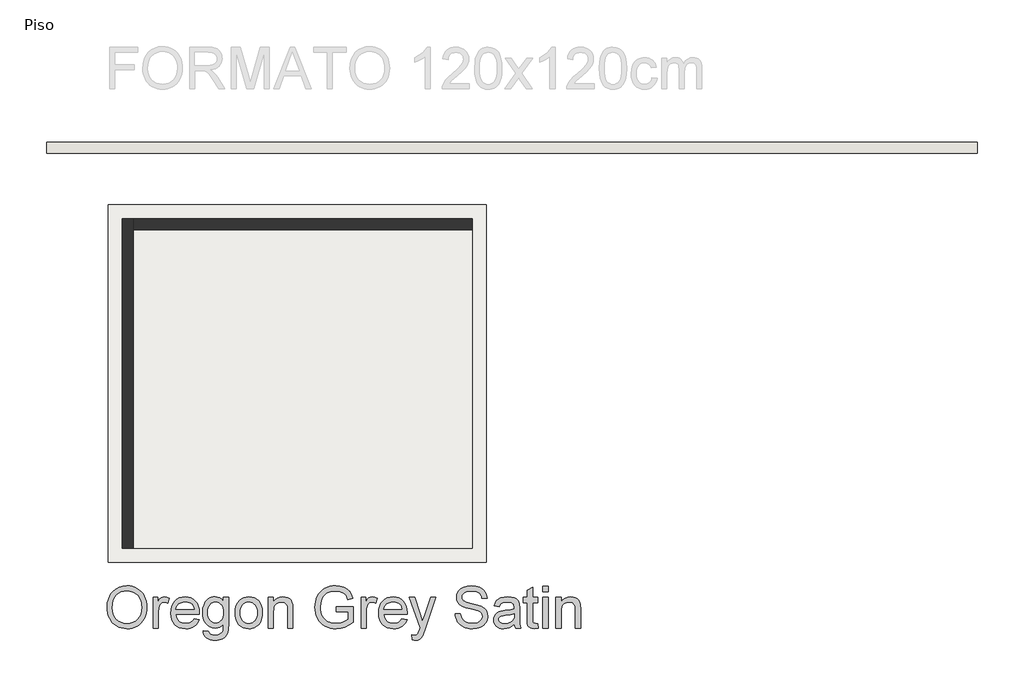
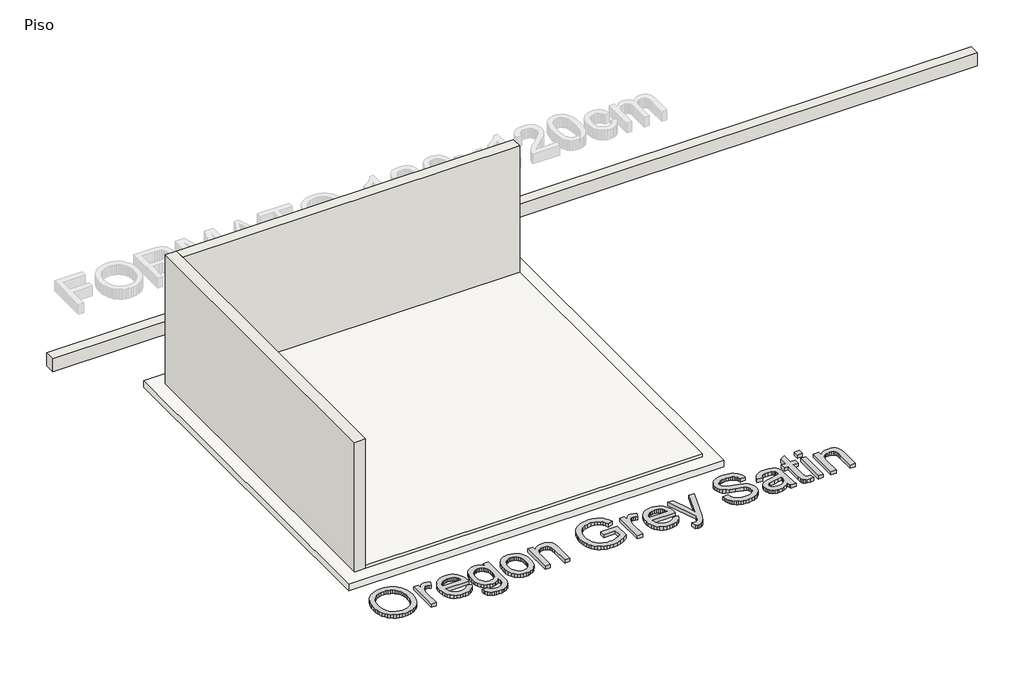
# One storey, part 1 of 2: 3 walls, 2 slabs, 1 proxy.
"""IFC4 building model written with IfcOpenShell, lengths in millimetres."""

from ifc_helpers import new_model, si_unit, frame, origin, origin_with_axes, place, context, project, spatial, polyline, outline, extrude, faceted_brep, element, save

model = new_model("IFC4")

# Units and contexts
model_context = context("Model", 3, world=origin())
ifc_project = project(units=[si_unit("LENGTHUNIT", "METRE", prefix="MILLI")], contexts=[model_context])

# Site, building, storey
site = spatial("IfcSite", under=ifc_project)
building = spatial("IfcBuilding", under=site)
storey = spatial("IfcBuildingStorey", under=building, Name="Piso", Elevation=0.0)

# Proxy
placement = place(None, origin())
element("IfcBuildingElementProxy", 1, Name="600mm Arial", ObjectType="600mm Arial", at=placement, inside=storey, context=model_context, shape_type="SweptSolid", body=[
    extrude(outline(polyline([(92565.5210472, -4824.3170558), (92570.5426364, -4753.6193334), (92585.6074041, -4691.0334089), (92610.7153503, -4636.5592825), (92627.0355153, -4612.3641435), (92645.8664749, -4590.1969541), (92688.9546536, -4553.1788283), (92737.8737619, -4526.7373099), (92792.6237999, -4510.8723988), (92853.2047674, -4505.5840952), (92893.7545603, -4508.0672986), (92932.2626082, -4515.516909), (92968.7289109, -4527.9329264), (93003.1534686, -4545.3153506), (93034.570591, -4567.13995), (93062.0145879, -4592.8824926), (93085.4854592, -4622.5429785), (93104.9832049, -4656.1214076), (93120.30549, -4692.8544248), (93131.2499794, -4731.978675), (93137.816673, -4773.4941581), (93140.0055709, -4817.4008743), (93137.7017099, -4861.8870045), (93130.7901269, -4903.9635077), (93119.2708219, -4943.6303839), (93103.1437949, -4980.8876329), (93082.7907236, -5014.7511706), (93058.5932853, -5044.2369125), (93030.5514802, -5069.3448587), (92998.6653083, -5090.0750091), (92964.1901668, -5106.2986051), (92928.3814531, -5117.8868879), (92891.2391672, -5124.8398576), (92852.763309, -5127.1575142), (92811.5053433, -5124.5961358), (92772.4914577, -5116.9120006), (92735.7216523, -5104.1051087), (92701.195927, -5086.17546), (92669.8155928, -5063.8174317), (92642.4819606, -5037.7254012), (92619.1950303, -5007.8993684), (92599.9548019, -4974.3393334), (92584.8900342, -4938.392664), (92574.1294859, -4901.4067279), (92567.6731569, -4863.3815251), (92565.5210472, -4824.3170558)]), holes=[polyline([(92640.8632798, -4825.0528198), (92644.6294717, -4875.0019977), (92655.9280475, -4919.3409751), (92674.7590071, -4958.0697522), (92701.1223506, -4991.1883288), (92733.1694709, -5017.7126206), (92769.051761, -5036.6585434), (92808.7692209, -5048.0260971), (92852.3218506, -5051.8152816), (92896.6194414, -5047.9893089), (92936.8059508, -5036.5113906), (92972.881379, -5017.3815269), (93004.8457258, -4990.5997176), (93031.0159313, -4956.7821652), (93049.7089351, -4916.545072), (93060.9247375, -4869.8884379), (93064.6633382, -4816.8122631), (93063.0630516, -4782.3325231), (93058.2621915, -4750.1152574), (93050.2607581, -4720.1604659), (93039.0587514, -4692.4681487), (93024.7803314, -4667.4015893), (93007.5496585, -4645.324071), (92987.3667325, -4626.235594), (92964.2315536, -4610.1361582), (92938.8614915, -4597.3568574), (92911.9739161, -4588.2287854), (92883.5688276, -4582.7519422), (92853.6462258, -4580.9263278), (92811.6065108, -4584.4441994), (92772.6018223, -4594.9978141), (92736.6321602, -4612.587172), (92703.6975246, -4637.212273), (92676.2075425, -4670.0595367), (92656.571841, -4712.3153824), (92644.7904201, -4763.97981), (92640.8632798, -4825.0528198)])]), origin_with_axes(), (0.0, 0.0, 1.0), 50.0),
    extrude(outline(polyline([(93234.1833616, -5117.7397351), (93234.1833616, -4675.1041185), (93300.1078152, -4675.1041185), (93300.1078152, -4740.5871137), (93324.4616032, -4702.6216918), (93346.9024049, -4680.2544665), (93369.416783, -4669.3283712), (93393.9913003, -4665.6863395), (93431.5152638, -4671.498875), (93469.6278385, -4688.9364816), (93444.4647101, -4756.4796159), (93417.9772064, -4744.891333), (93391.4897028, -4741.0285721), (93368.9937188, -4744.7441802), (93348.8889677, -4755.8910047), (93332.6469776, -4773.6229168), (93321.7392765, -4797.0937881), (93312.5790148, -4839.1794884), (93309.5255942, -4885.0911614), (93309.5255942, -5117.7397351), (93234.1833616, -5117.7397351)])), origin_with_axes(), (0.0, 0.0, 1.0), 50.0),
    extrude(outline(polyline([(93826.6205267, -4985.8908281), (93900.4912313, -4995.3086071), (93889.1650644, -5024.8955166), (93873.8749689, -5050.969153), (93854.620945, -5073.5295164), (93831.4029926, -5092.5766067), (93804.460235, -5107.7057537), (93774.0317954, -5118.5122873), (93740.117674, -5124.9962075), (93702.7178707, -5127.1575142), (93655.9692661, -5123.4281105), (93614.3158272, -5112.2398993), (93577.757554, -5093.5928807), (93546.2944463, -5067.4870546), (93520.9933621, -5034.648988), (93502.9211591, -4995.8052478), (93492.0778373, -4950.9558341), (93488.4633967, -4900.1007468), (93492.1146255, -4847.5212126), (93503.0683119, -4801.1772783), (93521.3244559, -4761.0689438), (93546.8830575, -4727.1962091), (93578.2633917, -4700.2856411), (93613.9847334, -4681.0638069), (93654.0470827, -4669.5307063), (93698.4504395, -4665.6863395), (93741.4236551, -4669.5215093), (93780.2857894, -4681.0270187), (93815.0368423, -4700.2028677), (93845.676814, -4727.0490563), (93870.6881911, -4760.8482146), (93888.5534605, -4800.8829727), (93899.2726222, -4847.1533306), (93902.8456761, -4899.6592884), (93902.4042177, -4919.9663745), (93563.8056293, -4919.9663745), (93568.1696295, -4950.0315306), (93576.847046, -4976.3626844), (93589.837879, -4998.9598359), (93607.1421283, -5017.8229852), (93627.8033009, -5032.6946149), (93650.8649035, -5043.3172075), (93676.326936, -5049.6907631), (93704.1893987, -5051.8152816), (93744.2885361, -5047.8789443), (93778.0601033, -5036.0699322), (93805.5041001, -5015.6524815), (93826.6205267, -4985.8908281)]), holes=[polyline([(93563.8056293, -4844.6241419), (93827.5034434, -4844.6241419), (93817.3131122, -4804.81931), (93808.5483236, -4789.1659311), (93797.3371198, -4776.3452436), (93776.7909104, -4760.8941998), (93753.4120096, -4749.85774), (93727.2004175, -4743.235864), (93698.1561339, -4741.0285721), (93671.6640318, -4742.7898071), (93647.3700245, -4748.0735123), (93625.2741122, -4756.8796875), (93605.3762948, -4769.2083329), (93588.6790507, -4784.4892313), (93576.1848584, -4802.1521656), (93567.893718, -4822.1971358), (93563.8056293, -4844.6241419)])]), origin_with_axes(), (0.0, 0.0, 1.0), 50.0),
    extrude(outline(polyline([(93959.3523505, -5155.4108514), (94034.6945831, -5164.8286305), (94043.0087162, -5188.3730782), (94059.1219476, -5204.559886), (94090.7965874, -5217.1414502), (94132.2568882, -5221.335305), (94176.4763041, -5216.5896272), (94194.3369749, -5210.6575301), (94209.3649544, -5202.352594), (94232.1736381, -5179.5439103), (94246.153154, -5149.0832811), (94250.2366441, -5116.6728774), (94251.3035019, -5061.2330607), (94226.2323439, -5085.9547308), (94198.2549182, -5103.6130665), (94167.3712247, -5114.208068), (94133.5812634, -5117.7397351), (94092.2727139, -5113.6286538), (94055.9029801, -5101.29541), (94024.4720622, -5080.7400035), (93997.97996, -5051.9624344), (93976.9601025, -5017.4367092), (93961.9459186, -4979.6368341), (93952.9374082, -4938.5628094), (93949.9345714, -4894.2146349), (93955.3240427, -4833.385347), (93971.4924564, -4777.4488896), (93983.4762123, -4752.2259803), (93997.8695954, -4730.0472945), (94014.6726055, -4710.9128322), (94033.8852427, -4694.8225935), (94055.1994058, -4682.0754823), (94078.3069937, -4672.970403), (94103.2080062, -4667.5073553), (94129.9024435, -4665.6863395), (94165.1363416, -4669.8066178), (94197.114484, -4682.1674528), (94225.8368708, -4702.7688446), (94251.3035019, -4731.610793), (94251.3035019, -4675.1041185), (94326.6457345, -4675.1041185), (94326.6457345, -5057.2599351), (94321.4953866, -5145.4964317), (94315.0574516, -5178.3161042), (94306.0443428, -5203.6033928), (94294.2399292, -5223.9978509), (94279.4280804, -5242.1390318), (94261.6087963, -5258.0269355), (94240.7820768, -5271.6615619), (94217.1594542, -5282.6060513), (94190.9524606, -5290.4235437), (94162.1610959, -5295.1140391), (94130.7853603, -5296.6775376), (94093.8730006, -5294.4748441), (94060.6854461, -5287.8667638), (94031.2226968, -5276.8532966), (94005.4847527, -5261.4344425), (93984.6948215, -5241.5918073), (93970.0761107, -5217.3069971), (93961.6286204, -5188.5800118), (93959.3523505, -5155.4108514)]), holes=[polyline([(94025.276804, -4889.0642869), (94027.2863594, -4926.3169375), (94033.3150256, -4958.1709197), (94043.3628026, -4984.6262337), (94057.4296904, -5005.6828794), (94074.5316047, -5021.745527), (94093.6844611, -5033.2188467), (94114.8882595, -5040.1028386), (94138.1430002, -5042.3975025), (94161.1678145, -5040.1166342), (94182.2704455, -5033.274029), (94201.450893, -5021.8696872), (94218.7091571, -5005.9036086), (94232.9691829, -4985.0538965), (94243.1549157, -4958.9986542), (94249.2663553, -4927.7378817), (94251.3035019, -4891.2715789), (94249.2065745, -4856.3273879), (94242.9157924, -4825.9541307), (94232.4311555, -4800.1518072), (94217.7526639, -4778.9204176), (94200.1219193, -4762.3427352), (94180.7805234, -4750.5015335), (94159.7284762, -4743.3968124), (94136.9657778, -4741.0285721), (94114.5847569, -4743.3600242), (94093.9419784, -4750.3543807), (94075.0374424, -4762.0116414), (94057.8711488, -4778.3318064), (94043.611123, -4799.2412993), (94033.4253902, -4824.6665437), (94027.3139506, -4854.6075396), (94025.276804, -4889.0642869)])]), origin_with_axes(), (0.0, 0.0, 1.0), 50.0),
    extrude(outline(polyline([(94420.8235253, -4896.4219268), (94424.8978184, -4839.0967149), (94437.1206976, -4789.69936), (94457.4921631, -4748.2298621), (94486.0122148, -4714.6882212), (94514.7254045, -4693.249898), (94546.4184384, -4677.9368099), (94581.0913165, -4668.7489571), (94618.7440387, -4665.6863395), (94660.3101056, -4669.4157432), (94697.8938499, -4680.6039544), (94731.4952717, -4699.250973), (94761.1143708, -4725.3567991), (94785.2888164, -4758.0385158), (94802.5562776, -4796.4132064), (94812.9167542, -4840.4808709), (94816.3702465, -4890.2415093), (94814.8435362, -4930.570573), (94810.2634054, -4966.3562941), (94802.629854, -4997.5986726), (94791.942882, -5024.2977084), (94778.3358467, -5047.3593109), (94761.9421053, -5067.6893897), (94742.7616578, -5085.2879446), (94720.7945041, -5100.1549758), (94696.89597, -5111.9685863), (94671.9213811, -5120.4068796), (94645.8707373, -5125.4698556), (94618.7440387, -5127.1575142), (94576.5709664, -5123.4419061), (94538.6377342, -5112.2950816), (94504.944342, -5093.7170409), (94475.4907897, -5067.7077838), (94451.5738615, -5034.7087688), (94434.4903414, -4995.1614543), (94424.2402293, -4949.0658403), (94420.8235253, -4896.4219268)]), holes=[polyline([(94496.1657579, -4896.274774), (94498.3454587, -4932.8192517), (94504.8845612, -4964.4617018), (94515.7830653, -4991.2021244), (94531.040971, -5013.0405193), (94549.6006177, -5030.0044778), (94570.4043445, -5042.121591), (94593.4521515, -5049.391859), (94618.7440387, -5051.8152816), (94643.9071671, -5049.3780634), (94666.8630036, -5042.0664087), (94687.6115482, -5029.8803176), (94706.1528007, -5012.8197901), (94721.4107065, -4990.7652645), (94732.3092106, -4963.5971792), (94738.848313, -4931.3155341), (94741.0280139, -4893.9203293), (94738.8345175, -4858.5346799), (94732.2540283, -4827.7199642), (94721.2865463, -4801.4761824), (94705.9320715, -4779.8033344), (94687.3218411, -4762.8393759), (94666.5870921, -4750.7222626), (94643.7278247, -4743.4519947), (94618.7440387, -4741.0285721), (94593.4521515, -4743.4427977), (94570.4043445, -4750.6854744), (94549.6006177, -4762.7566024), (94531.040971, -4779.6561816), (94515.7830653, -4801.4301972), (94504.8845612, -4828.1246344), (94498.3454587, -4859.7394934), (94496.1657579, -4896.274774)])]), origin_with_axes(), (0.0, 0.0, 1.0), 50.0),
    extrude(outline(polyline([(94901.1302582, -5117.7397351), (94901.1302582, -4675.1041185), (94976.4724908, -4675.1041185), (94976.4724908, -4736.9082937), (95002.6472947, -4705.7486887), (95034.0828112, -4683.491828), (95070.7790402, -4670.1377116), (95112.7359818, -4665.6863395), (95149.8736692, -4669.2731889), (95183.8843597, -4680.0337373), (95212.2480615, -4696.6252153), (95232.444783, -4717.7048536), (95246.1483873, -4743.2174699), (95255.0327375, -4773.1078821), (95259.0058631, -4845.9485171), (95259.0058631, -5117.7397351), (95183.6636305, -5117.7397351), (95183.6636305, -4856.1020602), (95181.4931267, -4817.1433569), (95174.9816154, -4789.4418426), (95162.9702682, -4769.594609), (95144.300257, -4754.1987475), (95120.3695332, -4744.3211159), (95092.5760485, -4741.0285721), (95069.6983869, -4742.8771791), (95048.4486031, -4748.4230002), (95028.8266972, -4757.6660353), (95010.8326691, -4770.6062845), (94995.8000911, -4788.7152757), (94985.0625354, -4813.4645369), (94978.6200019, -4844.8540682), (94976.4724908, -4882.8838694), (94976.4724908, -5117.7397351), (94901.1302582, -5117.7397351)])), origin_with_axes(), (0.0, 0.0, 1.0), 50.0),
    extrude(outline(polyline([(95889.9970612, -4882.2952582), (95889.9970612, -4806.9530256), (96134.8593172, -4806.9530256), (96134.8593172, -5032.2439595), (96075.3544045, -5073.6306839), (96013.9732936, -5103.3187609), (95950.8631373, -5121.1978259), (95886.1710884, -5127.1575142), (95842.8943702, -5124.7892739), (95801.6502001, -5117.6845528), (95762.4385779, -5105.8433511), (95725.2595038, -5089.2656687), (95691.3131927, -5068.199826), (95661.7998596, -5042.8941432), (95636.7195046, -5013.3486205), (95616.0721276, -4979.5632577), (95599.9451006, -4942.6187084), (95588.4257957, -4903.5956257), (95581.5142127, -4862.4940098), (95579.2103517, -4819.3138606), (95581.5050156, -4776.1291129), (95588.3890075, -4734.4250903), (95599.8623272, -4694.2017926), (95615.9249748, -4655.45922), (95636.2918418, -4619.8988266), (95660.6778195, -4589.2220668), (95689.0829081, -4563.4289404), (95721.5071074, -4542.5194475), (95757.2468432, -4526.3602308), (95795.5985412, -4514.8179332), (95836.5622014, -4507.8925547), (95880.1378237, -4505.5840952), (95942.1995163, -4510.9367782), (95998.007215, -4526.9948273), (96022.9266216, -4538.748657), (96045.0041399, -4552.5994141), (96064.2397697, -4568.5470986), (96080.6335111, -4586.5917105), (96106.9922561, -4630.6087912), (96126.1773021, -4686.2877312), (96056.7211814, -4705.8590533), (96041.2149553, -4666.146192), (96022.3610031, -4636.1822035), (95997.4186038, -4613.5942489), (95963.6470366, -4596.0094896), (95923.3823523, -4584.6971182), (95878.9606013, -4580.9263278), (95826.9604813, -4584.9914238), (95782.5019422, -4597.186712), (95745.7505309, -4615.9854819), (95716.8717943, -4639.8610234), (95694.7069041, -4667.5809317), (95678.097032, -4697.9128022), (95660.4386962, -4754.7873587), (95654.5525843, -4816.2236519), (95656.3230164, -4853.8441844), (95661.6343127, -4888.2733406), (95670.4864732, -4919.5111206), (95682.8794979, -4947.5575242), (95698.6524385, -4972.3067854), (95717.6443465, -4993.6531382), (95739.8552219, -5011.5965825), (95765.2850648, -5026.1371183), (95792.7428572, -5037.3713148), (95821.0375812, -5045.3957408), (95850.1692367, -5050.2103964), (95880.1378237, -5051.8152816), (95932.3218847, -5046.9776334), (95983.2183588, -5032.4646887), (96027.4193805, -5012.4703022), (96059.5170846, -4991.1883288), (96059.5170846, -4882.2952582), (95889.9970612, -4882.2952582)])), origin_with_axes(), (0.0, 0.0, 1.0), 50.0),
    extrude(outline(polyline([(96247.8726661, -5117.7397351), (96247.8726661, -4675.1041185), (96313.7971196, -4675.1041185), (96313.7971196, -4740.5871137), (96338.1509077, -4702.6216918), (96360.5917094, -4680.2544665), (96383.1060875, -4669.3283712), (96407.6806048, -4665.6863395), (96445.2045683, -4671.498875), (96483.317143, -4688.9364816), (96458.1540146, -4756.4796159), (96431.6665109, -4744.891333), (96405.1790072, -4741.0285721), (96382.6830232, -4744.7441802), (96362.5782722, -4755.8910047), (96346.3362821, -4773.6229168), (96335.428581, -4797.0937881), (96326.2683193, -4839.1794884), (96323.2148987, -4885.0911614), (96323.2148987, -5117.7397351), (96247.8726661, -5117.7397351)])), origin_with_axes(), (0.0, 0.0, 1.0), 50.0),
    extrude(outline(polyline([(96840.3098311, -4985.8908281), (96914.1805358, -4995.3086071), (96902.8543688, -5024.8955166), (96887.5642734, -5050.969153), (96868.3102495, -5073.5295164), (96845.0922971, -5092.5766067), (96818.1495395, -5107.7057537), (96787.7210999, -5118.5122873), (96753.8069785, -5124.9962075), (96716.4071752, -5127.1575142), (96669.6585706, -5123.4281105), (96628.0051317, -5112.2398993), (96591.4468585, -5093.5928807), (96559.9837508, -5067.4870546), (96534.6826666, -5034.648988), (96516.6104636, -4995.8052478), (96505.7671418, -4950.9558341), (96502.1527012, -4900.1007468), (96505.80393, -4847.5212126), (96516.7576164, -4801.1772783), (96535.0137604, -4761.0689438), (96560.572362, -4727.1962091), (96591.9526962, -4700.2856411), (96627.6740379, -4681.0638069), (96667.7363872, -4669.5307063), (96712.139744, -4665.6863395), (96755.1129596, -4669.5215093), (96793.9750938, -4681.0270187), (96828.7261468, -4700.2028677), (96859.3661185, -4727.0490563), (96884.3774956, -4760.8482146), (96902.242765, -4800.8829727), (96912.9619267, -4847.1533306), (96916.5349805, -4899.6592884), (96916.0935221, -4919.9663745), (96577.4949338, -4919.9663745), (96581.858934, -4950.0315306), (96590.5363505, -4976.3626844), (96603.5271835, -4998.9598359), (96620.8314328, -5017.8229852), (96641.4926054, -5032.6946149), (96664.5542079, -5043.3172075), (96690.0162405, -5049.6907631), (96717.8787031, -5051.8152816), (96757.9778406, -5047.8789443), (96791.7494078, -5036.0699322), (96819.1934046, -5015.6524815), (96840.3098311, -4985.8908281)]), holes=[polyline([(96577.4949338, -4844.6241419), (96841.1927479, -4844.6241419), (96831.0024167, -4804.81931), (96822.2376281, -4789.1659311), (96811.0264243, -4776.3452436), (96790.4802149, -4760.8941998), (96767.1013141, -4749.85774), (96740.8897219, -4743.235864), (96711.8454384, -4741.0285721), (96685.3533362, -4742.7898071), (96661.059329, -4748.0735123), (96638.9634167, -4756.8796875), (96619.0655992, -4769.2083329), (96602.3683552, -4784.4892313), (96589.8741629, -4802.1521656), (96581.5830225, -4822.1971358), (96577.4949338, -4844.6241419)])]), origin_with_axes(), (0.0, 0.0, 1.0), 50.0),
    extrude(outline(polyline([(96991.8772132, -5287.2597585), (96982.4594341, -5214.7134291), (97020.7191616, -5221.335305), (97040.8423067, -5219.2567717), (97056.4772915, -5213.0211719), (97068.6541855, -5203.0699639), (97078.4030584, -5189.8446062), (97099.0044501, -5134.3680013), (97104.8905621, -5116.1210544), (96944.7883178, -4675.1041185), (97024.2508287, -4675.1041185), (97109.1579932, -4920.8492913), (97138.7357056, -5019.1473604), (97168.313418, -4932.3272096), (97255.5750273, -4675.1041185), (97334.4489271, -4675.1041185), (97180.3799475, -5128.3347366), (97140.3543864, -5226.6328057), (97119.8633593, -5258.0131399), (97096.6500054, -5279.7549658), (97069.6842551, -5292.4468946), (97037.9360389, -5296.6775376), (97016.1206366, -5294.3230928), (96991.8772132, -5287.2597585)])), origin_with_axes(), (0.0, 0.0, 1.0), 50.0),
    extrude(outline(polyline([(97613.4506322, -4910.5485955), (97688.7928648, -4910.5485955), (97697.4380917, -4952.3583842), (97713.0730765, -4985.9644045), (97737.4636528, -5012.6358491), (97772.3756541, -5033.641911), (97815.0499656, -5047.271939), (97862.7274721, -5051.8152816), (97904.7028078, -5048.3755849), (97941.4542191, -5038.056495), (97971.2342666, -5021.7225344), (97992.2955108, -5000.2382259), (98004.8218928, -4975.5717381), (98008.9973534, -4949.6912397), (98005.8703565, -4924.472929), (97996.4893656, -4902.6759208), (97977.4330782, -4884.0794859), (97945.2801919, -4868.4628952), (97835.5777809, -4839.6945232), (97763.5648803, -4820.6566299), (97717.4876604, -4802.5384417), (97679.982091, -4777.1913722), (97653.4026169, -4746.4732256), (97637.565297, -4711.0461895), (97632.2861904, -4671.5724514), (97633.9186667, -4649.1362482), (97638.8160958, -4627.4450061), (97646.9784775, -4606.498725), (97658.405812, -4586.2974049), (97672.9693405, -4567.6641818), (97690.5403043, -4551.4221918), (97711.1187034, -4537.5714346), (97734.7045378, -4526.1119105), (97787.7163333, -4510.716049), (97846.3935115, -4505.5840952), (97909.9635203, -4510.9551723), (97965.587278, -4527.0684037), (97989.922672, -4539.0705538), (98011.2782218, -4553.5926955), (98029.6539274, -4570.634829), (98045.0497889, -4590.1969541), (98057.3462446, -4611.7088537), (98066.4237329, -4634.6003109), (98072.2822536, -4658.8713255), (98074.921807, -4684.5218976), (97999.5795743, -4684.5218976), (97994.539591, -4660.4808092), (97985.7472113, -4639.5667178), (97973.2024353, -4621.7796233), (97956.9052629, -4607.1195258), (97936.5521915, -4595.6600017), (97911.8397185, -4587.4746273), (97882.7678438, -4582.5634027), (97849.3365675, -4580.9263278), (97814.8384334, -4582.5450086), (97785.3618885, -4587.4010509), (97760.9069329, -4595.4944548), (97741.4735665, -4606.8252202), (97726.6663162, -4620.4460511), (97716.0897089, -4635.4096513), (97709.7437444, -4651.7160207), (97707.628423, -4669.3651594), (97709.1275421, -4684.5494888), (97713.6248995, -4698.3174724), (97721.1204951, -4710.6691104), (97731.6143291, -4721.6044027), (97748.1322306, -4731.9602809), (97774.1414877, -4742.4265237), (97854.6340682, -4763.690103), (97937.7018228, -4783.8868245), (97987.9545033, -4801.5083721), (98030.9047262, -4828.8420043), (98047.5099998, -4844.9092505), (98060.8687147, -4862.5767833), (98071.1372209, -4881.7526323), (98078.4718682, -4902.344827), (98084.339586, -4947.7782534), (98082.6519274, -4971.3456937), (98077.5889514, -4994.2233553), (98069.1506582, -5016.4112381), (98057.3370476, -5037.9093422), (98042.3550533, -5057.8853345), (98024.411609, -5075.5068821), (98003.5067146, -5090.7739849), (97979.6403702, -5103.6866429), (97953.506953, -5113.9551491), (97925.8008402, -5121.2897964), (97865.6705281, -5127.1575142), (97827.1302906, -5125.5756216), (97791.8550058, -5120.8299439), (97759.8446737, -5112.920481), (97731.0992943, -5101.8472329), (97705.4441236, -5087.5918056), (97682.7044178, -5070.135805), (97662.8801768, -5049.4792309), (97645.9714006, -5025.6220835), (97632.3505697, -4999.336915), (97622.3901647, -4971.3962775), (97616.0901855, -4941.8001709), (97613.4506322, -4910.5485955)])), origin_with_axes(), (0.0, 0.0, 1.0), 50.0),
    extrude(outline(polyline([(98470.4685282, -5061.2330607), (98434.4712749, -5092.0983601), (98397.4071639, -5112.2950816), (98358.4300665, -5123.4419061), (98316.6938542, -5127.1575142), (98283.1476147, -5124.9226311), (98253.7308507, -5118.2179817), (98228.4435621, -5107.0435661), (98207.2857488, -5091.3993843), (98190.5793077, -5072.2787176), (98178.6461355, -5050.6748474), (98171.4862322, -5026.5877738), (98169.0995977, -5000.0174967), (98172.7048413, -4968.7843153), (98183.5205719, -4940.4206135), (98200.2040204, -4916.1404018), (98221.4124174, -4897.1576908), (98246.3364226, -4882.810293), (98274.1666955, -4872.4360208), (98339.3553851, -4861.1052553), (98416.3898749, -4849.1858787), (98470.0270698, -4835.2063628), (98470.4685282, -4818.4309439), (98465.281392, -4784.8065295), (98458.7974719, -4772.353724), (98449.7199836, -4762.8071862), (98434.0298165, -4753.2790425), (98414.9183469, -4746.4732256), (98366.4314999, -4741.0285721), (98321.5498965, -4744.6522097), (98290.2063505, -4755.5231227), (98268.8324066, -4775.6278737), (98253.8596094, -4806.9530256), (98178.5173768, -4797.5352465), (98191.5955817, -4756.3324631), (98211.1117216, -4723.9588475), (98238.8868122, -4699.2003892), (98276.7418695, -4680.8430777), (98323.0398186, -4669.475524), (98376.1435846, -4665.6863395), (98427.0768468, -4669.0340656), (98467.4518958, -4679.0772441), (98497.8941309, -4694.1788), (98519.0289515, -4712.7016584), (98533.0452555, -4735.6023126), (98542.1319408, -4763.8372558), (98545.8107608, -4829.7617093), (98545.8107608, -4923.4980417), (98549.6367335, -5054.3904556), (98555.3021163, -5086.745677), (98564.6463189, -5117.7397351), (98489.3040863, -5117.7397351), (98477.2375569, -5091.5465371), (98470.4685282, -5061.2330607)]), holes=[polyline([(98470.4685282, -4910.5485955), (98419.8479656, -4923.0933715), (98348.920317, -4933.6515848), (98284.0995094, -4945.865267), (98267.2321199, -4954.2161883), (98254.7425262, -4965.7308947), (98247.0170043, -4979.5264695), (98244.4418303, -4994.7199959), (98250.0520308, -5017.1240095), (98266.882632, -5035.481321), (98294.5657522, -5047.7317915), (98332.7335092, -5051.8152816), (98373.2005286, -5047.3087272), (98408.9586586, -5033.7890638), (98437.9477598, -5013.8682538), (98458.1076931, -4990.1582592), (98467.0472256, -4965.7308947), (98470.0270698, -4931.8857512), (98470.4685282, -4910.5485955)])]), origin_with_axes(), (0.0, 0.0, 1.0), 50.0),
    extrude(outline(polyline([(98809.5085749, -5054.9054904), (98818.926354, -5119.9470271), (98762.5668323, -5127.1575142), (98726.4040322, -5124.0305173), (98699.438282, -5114.6495264), (98680.3819946, -5100.191764), (98667.9475832, -5081.8344524), (98661.1049781, -5050.3069654), (98658.8241097, -4996.3386767), (98658.8241097, -4750.4463512), (98602.3174352, -4750.4463512), (98602.3174352, -4675.1041185), (98658.8241097, -4675.1041185), (98658.8241097, -4567.5354232), (98734.1663423, -4523.2424309), (98734.1663423, -4675.1041185), (98809.5085749, -4675.1041185), (98809.5085749, -4750.4463512), (98734.1663423, -4750.4463512), (98734.1663423, -4994.1313848), (98738.1394679, -5032.9797234), (98751.0153377, -5046.7385101), (98761.8862506, -5050.5460887), (98776.693501, -5051.8152816), (98809.5085749, -5054.9054904)])), origin_with_axes(), (0.0, 0.0, 1.0), 50.0),
    extrude(outline(polyline([(98884.8508075, -4590.3441069), (98884.8508075, -4515.0018742), (98960.1930401, -4515.0018742), (98960.1930401, -4590.3441069), (98884.8508075, -4590.3441069)])), origin_with_axes(), (0.0, 0.0, 1.0), 50.0),
    extrude(outline(polyline([(98884.8508075, -5117.7397351), (98884.8508075, -4675.1041185), (98960.1930401, -4675.1041185), (98960.1930401, -5117.7397351), (98884.8508075, -5117.7397351)])), origin_with_axes(), (0.0, 0.0, 1.0), 50.0),
    extrude(outline(polyline([(99073.2063891, -5117.7397351), (99073.2063891, -4675.1041185), (99148.5486217, -4675.1041185), (99148.5486217, -4736.9082937), (99174.7234256, -4705.7486887), (99206.1589421, -4683.491828), (99242.8551711, -4670.1377116), (99284.8121127, -4665.6863395), (99321.9498001, -4669.2731889), (99355.9604906, -4680.0337373), (99384.3241924, -4696.6252153), (99404.5209139, -4717.7048536), (99418.2245182, -4743.2174699), (99427.1088684, -4773.1078821), (99431.081994, -4845.9485171), (99431.081994, -5117.7397351), (99355.7397614, -5117.7397351), (99355.7397614, -4856.1020602), (99353.5692576, -4817.1433569), (99347.0577463, -4789.4418426), (99335.0463991, -4769.594609), (99316.3763879, -4754.1987475), (99292.4456641, -4744.3211159), (99264.6521794, -4741.0285721), (99241.7745178, -4742.8771791), (99220.524734, -4748.4230002), (99200.9028281, -4757.6660353), (99182.9088, -4770.6062845), (99167.876222, -4788.7152757), (99157.1386663, -4813.4645369), (99150.6961328, -4844.8540682), (99148.5486217, -4882.8838694), (99148.5486217, -5117.7397351), (99073.2063891, -5117.7397351)])), origin_with_axes(), (0.0, 0.0, 1.0), 50.0),
])

# Slabs
element("IfcSlab", 2, ObjectType="5cm - Porcelanato Oregon Grey Satin  - Acetinado 120x120", at=placement, inside=storey, context=model_context, shape_type="SweptSolid", body=[
    extrude(outline(polyline([(97863.4646113, 658.3938961), (97863.4646113, -3962.2061039), (92942.8646113, -3962.2061039), (92942.8646113, 658.3938961), (97863.4646113, 658.3938961)])), origin_with_axes(), (0.0, 0.0, 1.0), 50.0),
])
element("IfcSlab", 3, ObjectType="CO02 - Concreto Estrutural Simples", at=placement, inside=storey, context=model_context, shape_type="SweptSolid", body=[
    extrude(outline(polyline([(98063.4646113, 1017.1938961), (98063.4646113, -4162.2061039), (92584.0646113, -4162.2061039), (92584.0646113, 1017.1938961), (98063.4646113, 1017.1938961)])), frame((0.0, 0.0, -100.0), z_axis=(0.0, 0.0, 1.0), x_axis=(1.0, 0.0, 0.0)), (0.0, 0.0, 1.0), 100.0),
])

# Walls
element("IfcWall", 4, ObjectType="CO01 - Bloco de Concreto 14cm / Pintura Branca Simples", at=placement, inside=storey, context=model_context, shape_type="SweptSolid", body=[
    extrude(outline(polyline([(105186.699165, 1765.7486968), (91686.699165, 1765.7486968), (91686.699165, 1924.5486968), (105186.699165, 1924.5486968), (105186.699165, 1765.7486968)])), origin_with_axes(), (0.0, 0.0, 1.0), 200.0),
])
element("IfcWall", 5, ObjectType="CO01 - Bloco de Concreto 14cm / Pintura Branca Simples", at=placement, inside=storey, context=model_context, shape_type="Brep", body=[
    faceted_brep([(92942.8646113, -3962.2061039, 0.0), (92942.8646113, 658.3938961, 0.0), (92942.8646113, 817.1938961, 0.0), (92942.8646113, 817.1938961, 2000.0), (92942.8646113, 658.3938961, 2000.0), (92942.8646113, -3962.2061039, 2000.0), (92784.0646113, -3962.2061039, 0.0), (92784.0646113, -3962.2061039, 2000.0), (92784.0646113, 817.1938961, 2000.0), (92784.0646113, 817.1938961, 0.0)], [[[0, 1, 2, 3, 4, 5]], [[6, 7, 8, 9]], [[2, 1, 0, 6, 9]], [[5, 4, 3, 8, 7]], [[0, 5, 7, 6]], [[3, 2, 9, 8]]]),
])
element("IfcWall", 6, ObjectType="CO01 - Bloco de Concreto 14cm / Pintura Branca Simples", at=placement, inside=storey, context=model_context, shape_type="SweptSolid", body=[
    extrude(outline(polyline([(97863.4646113, 658.3938961), (92942.8646113, 658.3938961), (92942.8646113, 817.1938961), (97863.4646113, 817.1938961), (97863.4646113, 658.3938961)])), origin_with_axes(), (0.0, 0.0, 1.0), 2000.0),
])

save(model, "model.ifc")
